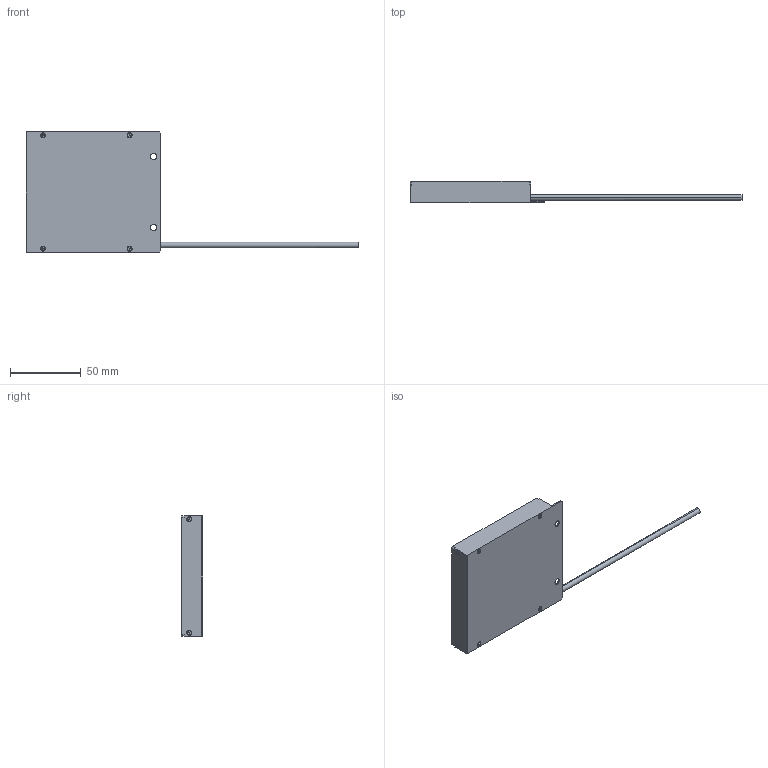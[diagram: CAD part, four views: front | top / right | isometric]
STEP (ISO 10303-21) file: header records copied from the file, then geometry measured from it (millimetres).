
FILE_DESCRIPTION (( 'STEP AP214' ), '1' );
FILE_NAME ('CV-FL-83X75#20140527.STEP', '2014-05-27T00:35:10', ( '' ), ( '' ), 'SwSTEP 2.0', 'SolidWorks 2011', '' );
FILE_SCHEMA (( 'AUTOMOTIVE_DESIGN' ));
Length unit declared in the file: millimetre
Products named in the file (1): CV-FL-83X75#20140527
Bounding box: 234 x 15 x 85 mm (x, y, z)
Volume: 111017.1 mm3; surface area: 23163.7 mm2
Topology: 1 solids, 1 shells, 217 faces, 461 edges, 270 vertices
Faces by surface type: plane 185, cone 24, cylinder 8
Entity records: 6338 total; most frequent: DIRECTION 963, CARTESIAN_POINT 949, ORIENTED_EDGE 922, EDGE_CURVE 461, LINE 395, VECTOR 395, AXIS2_PLACEMENT_3D 284, VERTEX_POINT 270
